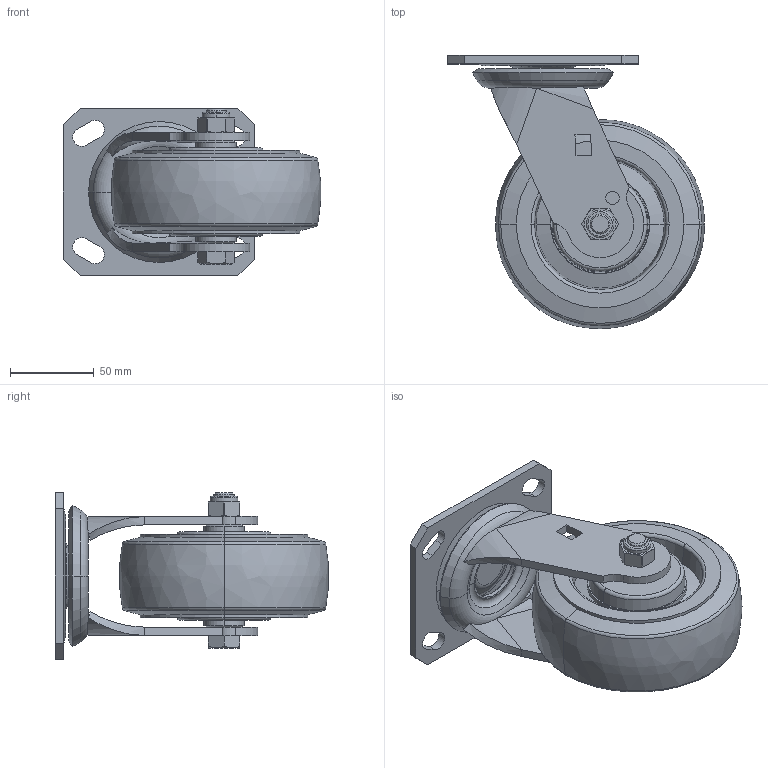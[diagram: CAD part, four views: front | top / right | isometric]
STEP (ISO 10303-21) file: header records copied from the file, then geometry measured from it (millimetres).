
FILE_DESCRIPTION((''),'2;1');
FILE_NAME('S7115_ASM','2021-10-19T',('lenovo'),(''),'PRO/ENGINEER BY PARAMETRIC TECHNOLOGY CORPORATION, 2010280','PRO/ENGINEER BY PARAMETRIC TECHNOLOGY CORPORATION, 2010280','');
FILE_SCHEMA(('CONFIG_CONTROL_DESIGN'));
Length unit declared in the file: millimetre
Products named in the file (8): S710-01; S710C03; 715C11; 715-11_ASM; S710-33; S710-34; 705-986; S7115_ASM
Assembly tree (7 placements, depth 3):
  S7115_ASM
    S710-01
    715-11_ASM
      S710C03
      715C11
    S710-33
    S710-34
    705-986
Bounding box: 153.3 x 162.8 x 100 mm (x, y, z)
Volume: 661209.7 mm3; surface area: 117973.9 mm2
Topology: 7 solids, 7 shells, 235 faces, 522 edges, 316 vertices
Faces by surface type: plane 69, cylinder 62, cone 60, torus 34, bspline 10
Entity records: 7170 total; most frequent: CARTESIAN_POINT 1650, DIRECTION 1216, ORIENTED_EDGE 1044, EDGE_CURVE 522, AXIS2_PLACEMENT_3D 498, VERTEX_POINT 316, EDGE_LOOP 276, CIRCLE 256
